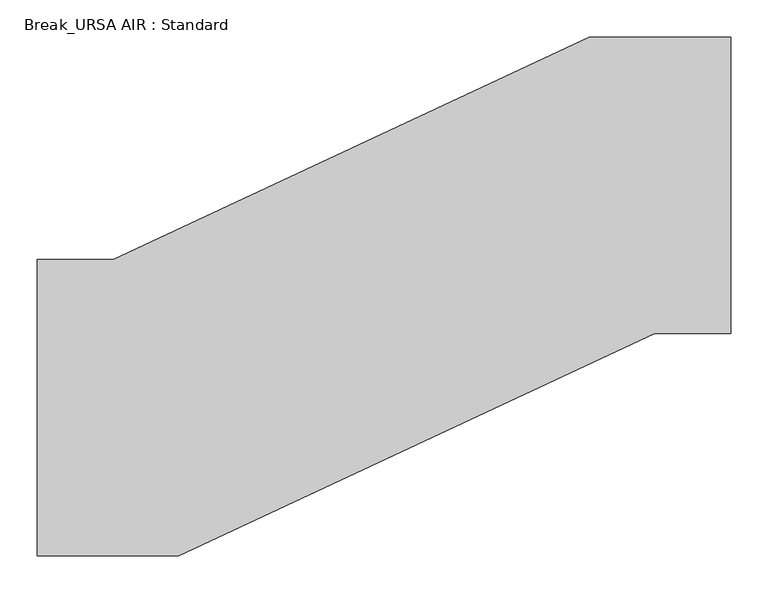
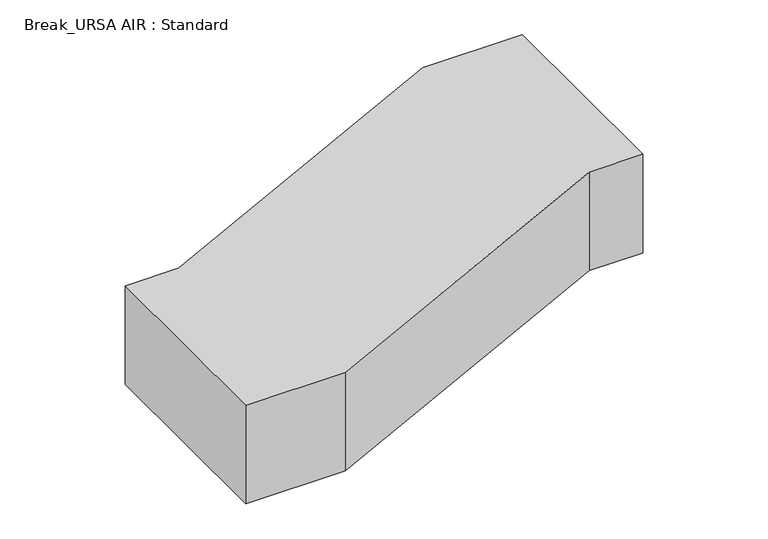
"""IFC4 building model written with IfcOpenShell, lengths in millimetres: duct fitting geometry, Break_URSA AIR : Standard."""

import ifcopenshell
import ifcopenshell.guid

model = None  # the IFC model being written
_history = None  # IfcOwnerHistory: only IFC2X3 demands one
_inside = {}  # id of a spatial element -> (the spatial element, [elements in it])
_under = {}  # id of a project, library or spatial element -> (it, [spatial elements below it])
_declared = {}  # id of a project -> (the project, [libraries it declares])
_typed = {}  # id of a type object -> (the type object, [elements of that type])
_made_of = {}  # id of a material, layer set ... -> (it, [elements and type objects made of it])


def new_model(schema):
    """Start an empty IFC model of exactly this schema.

    Asked for "IFC4X3", IfcOpenShell would pick the latest addendum, in which some entities
    have other attributes; the version numbers below select the first issue.
    IFC2X3 requires an IfcOwnerHistory on every rooted entity: one is made here for all.
    """
    global model, _history
    if schema == "IFC4X3":
        model = ifcopenshell.file(schema_version=(4, 3, 0, 0))
    else:
        model = ifcopenshell.file(schema=schema)
    _inside.clear()
    _under.clear()
    _declared.clear()
    _typed.clear()
    _made_of.clear()
    _history = None
    if model.schema == "IFC2X3":
        org = make("IfcOrganization", Name="unknown")
        user = make(
            "IfcPersonAndOrganization",
            ThePerson=make("IfcPerson", FamilyName="unknown"),
            TheOrganization=org,
        )
        app = make(
            "IfcApplication",
            ApplicationDeveloper=org,
            Version="unknown",
            ApplicationFullName="unknown",
            ApplicationIdentifier="unknown",
        )
        _history = make(
            "IfcOwnerHistory",
            OwningUser=user,
            OwningApplication=app,
            ChangeAction="ADDED",
            CreationDate=0,
        )
    return model


def make(cls, **values):
    """One entity of the class cls with the attributes given. An attribute that is None is left unset."""
    return model.create_entity(
        cls, **{name: value for name, value in values.items() if value is not None}
    )


def rooted(cls, **values):
    """An entity with a GlobalId (a new one), such as an element, a storey or a relation."""
    return make(cls, GlobalId=ifcopenshell.guid.new(), OwnerHistory=_history, **values)


def si_unit(unit_type, name, prefix=None):
    """IfcSIUnit, for example si_unit("LENGTHUNIT", "METRE", prefix="MILLI")."""
    return make("IfcSIUnit", UnitType=unit_type, Prefix=prefix, Name=name)


def assignment(units):
    """IfcUnitAssignment: the units of a project."""
    return None if units is None else make("IfcUnitAssignment", Units=units)


def point(xyz):
    """IfcCartesianPoint."""
    return None if xyz is None else make("IfcCartesianPoint", Coordinates=xyz)


def direction(xyz):
    """IfcDirection."""
    return None if xyz is None else make("IfcDirection", DirectionRatios=xyz)


def frame(location, z_axis=None, x_axis=None):
    """IfcAxis2Placement3D, a coordinate frame: its origin and axes. An axis left out is left unset."""
    return make(
        "IfcAxis2Placement3D",
        Location=point(location),
        Axis=direction(z_axis),
        RefDirection=direction(x_axis),
    )


def origin():
    """The frame at (0, 0, 0) with its axes left unset."""
    return frame((0.0, 0.0, 0.0))


def place(relative_to, where):
    """IfcLocalPlacement: puts the frame where relative to a parent placement (None: the world)."""
    return make(
        "IfcLocalPlacement", PlacementRelTo=relative_to, RelativePlacement=where
    )


def context(
    kind, dimensions, precision=None, world=None, true_north=None, identifier=None
):
    """IfcGeometricRepresentationContext, for example the 3D "Model" context."""
    return make(
        "IfcGeometricRepresentationContext",
        ContextIdentifier=identifier,
        ContextType=kind,
        CoordinateSpaceDimension=dimensions,
        Precision=precision,
        WorldCoordinateSystem=world,
        TrueNorth=true_north,
    )


def project(units=None, contexts=None):
    """IfcProject with its units and contexts."""
    return rooted(
        "IfcProject",
        Name="project",
        RepresentationContexts=contexts,
        UnitsInContext=assignment(units),
    )


def spatial(cls, under=None, at=None, **own):
    """A site, building, storey or space (cls), placed at a placement, below another one or the project."""
    s = rooted(cls, ObjectPlacement=at, **own)
    if under is not None:
        _under.setdefault(under.id(), (under, []))[1].append(s)
    return s


def polyline(points):
    """IfcPolyline through the points."""
    return make("IfcPolyline", Points=[point(p) for p in points])


def outline(outer, holes=None, kind="AREA"):
    """IfcArbitraryClosedProfileDef: a profile drawn as a closed curve; with holes, ...WithVoids."""
    if holes is None:
        return make("IfcArbitraryClosedProfileDef", ProfileType=kind, OuterCurve=outer)
    return make(
        "IfcArbitraryProfileDefWithVoids",
        ProfileType=kind,
        OuterCurve=outer,
        InnerCurves=holes,
    )


def extrude(swept, where, along, depth):
    """IfcExtrudedAreaSolid: the profile swept, set in the frame where, extruded along a direction by depth."""
    return make(
        "IfcExtrudedAreaSolid",
        SweptArea=swept,
        Position=where,
        ExtrudedDirection=direction(along),
        Depth=depth,
    )


def shape(context_of_items, identifier, shape_type, items):
    """IfcShapeRepresentation: the items that make up one representation, for example the "Body"."""
    return make(
        "IfcShapeRepresentation",
        ContextOfItems=context_of_items,
        RepresentationIdentifier=identifier,
        RepresentationType=shape_type,
        Items=items,
    )


def source(mapping_origin, context_of_items, identifier, shape_type, items):
    """IfcRepresentationMap: a shape defined once, which mapped items show again and again."""
    return make(
        "IfcRepresentationMap",
        MappingOrigin=mapping_origin,
        MappedRepresentation=shape(context_of_items, identifier, shape_type, items),
    )


def transform(
    local_origin,
    x_axis=None,
    y_axis=None,
    z_axis=None,
    scale=None,
    scale2=None,
    scale3=None,
    uniform=True,
):
    """IfcCartesianTransformationOperator3D, or its non-uniform kind. x_axis, y_axis, z_axis: its Axis1, 2, 3."""
    if uniform:
        return make(
            "IfcCartesianTransformationOperator3D",
            Axis1=direction(x_axis),
            Axis2=direction(y_axis),
            LocalOrigin=point(local_origin),
            Scale=scale,
            Axis3=direction(z_axis),
        )
    return make(
        "IfcCartesianTransformationOperator3DnonUniform",
        Axis1=direction(x_axis),
        Axis2=direction(y_axis),
        LocalOrigin=point(local_origin),
        Scale=scale,
        Axis3=direction(z_axis),
        Scale2=scale2,
        Scale3=scale3,
    )


def mapped(mapping_source, mapping_target):
    """IfcMappedItem: shows the shape of a source again, moved by a transform."""
    return make(
        "IfcMappedItem", MappingSource=mapping_source, MappingTarget=mapping_target
    )


def made_of(thing, what):
    """Note that an element or type object is made of a material, layer set ...; save() writes the relation."""
    if what is not None:
        _made_of.setdefault(what.id(), (what, []))[1].append(thing)
    return thing


def element(
    cls,
    number,
    at=None,
    inside=None,
    cuts=None,
    type_object=None,
    material=None,
    context=None,
    identifier="Body",
    shape_type=None,
    held_by="IfcProductDefinitionShape",
    body=None,
    shapes=None,
    **own,
):
    """One element of the class cls, such as IfcWall. Its Tag is "e" and its number.

    at: its placement. inside: the storey or other place that contains it. cuts: it is an
    opening in that element (IfcRelVoidsElement). A single representation is given by context,
    identifier, shape_type and body (its items); several are given by shapes. held_by: the class
    of the entity that holds the representations. save() writes the other relations.
    """
    e = rooted(cls, Tag="e%d" % number, ObjectPlacement=at, **own)
    if body is not None:
        shapes = [shape(context, identifier, shape_type, body)]
    if shapes is not None:
        e.Representation = make(held_by, Representations=shapes)
    if inside is not None:
        _inside.setdefault(inside.id(), (inside, []))[1].append(e)
    if cuts is not None:
        rooted(
            "IfcRelVoidsElement", RelatingBuildingElement=cuts, RelatedOpeningElement=e
        )
    if type_object is not None:
        _typed.setdefault(type_object.id(), (type_object, []))[1].append(e)
    return made_of(e, material)


def aggregate(whole, parts):
    """IfcRelAggregates: a whole, such as a stair, and the parts it consists of."""
    return rooted("IfcRelAggregates", RelatingObject=whole, RelatedObjects=parts)


def save(model, path):
    """Write the relations noted so far, then the file.

    IfcRelAggregates (storeys below a building ...), IfcRelContainedInSpatialStructure (elements
    in a storey), IfcRelDefinesByType, IfcRelAssociatesMaterial and IfcRelDeclares: one each for
    every whole, place, type object, material and project.
    """
    for whole, parts in _under.values():
        aggregate(whole, parts)
    for where, things in _inside.values():
        rooted(
            "IfcRelContainedInSpatialStructure",
            RelatedElements=things,
            RelatingStructure=where,
        )
    for kind, things in _typed.values():
        rooted("IfcRelDefinesByType", RelatedObjects=things, RelatingType=kind)
    for what, things in _made_of.values():
        rooted("IfcRelAssociatesMaterial", RelatedObjects=things, RelatingMaterial=what)
    for by, libraries in _declared.values():
        rooted("IfcRelDeclares", RelatingContext=by, RelatedDefinitions=libraries)
    model.write(path)


def break_ursa_air_standard_a2ab8622(model_context):
    return source(origin(), model_context, "Body", "SweptSolid", [
        extrude(outline(polyline([(-49.2, -200.0), (-49.2, 200.0), (53.1943806, 200.0), (694.9589568, 500.0), (886.2299412, 500.0), (886.2299412, 100.0), (783.8355606, 100.0), (142.0709844, -200.0), (-49.2, -200.0)])), frame((0.0, 0.0, -100.0), z_axis=(0.0, 0.0, 1.0), x_axis=(1.0, 0.0, 0.0)), (0.0, 0.0, 1.0), 200.0),
    ])


if __name__ == "__main__":
    model = new_model("IFC4")
    model_context = context("Model", 3, world=origin())
    ifc_project = project(units=[si_unit("LENGTHUNIT", "METRE", prefix="MILLI")], contexts=[model_context])
    site = spatial("IfcSite", under=ifc_project)
    building = spatial("IfcBuilding", under=site)
    placement = place(None, origin())
    break_ursa_air_standard_shape = break_ursa_air_standard_a2ab8622(model_context)
    element("IfcDuctFitting", 1, ObjectType="Break_URSA AIR : Standard", at=placement, inside=building, context=model_context, shape_type="MappedRepresentation", body=[
        mapped(break_ursa_air_standard_shape, transform((0.0, 0.0, 0.0), x_axis=(1.0, 0.0, 0.0), y_axis=(0.0, 1.0, 0.0), z_axis=(0.0, 0.0, 1.0))),
    ])
    save(model, "model.ifc")
